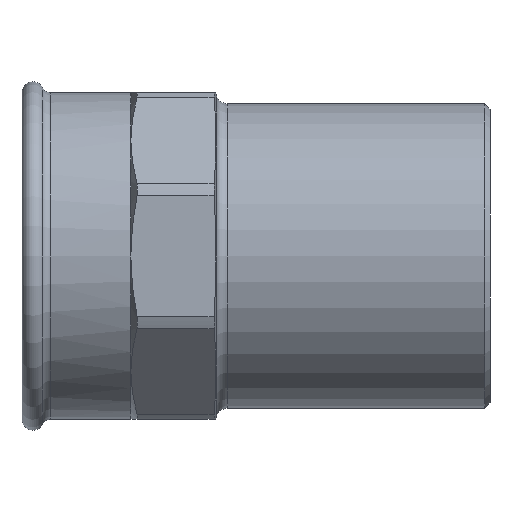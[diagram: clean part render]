
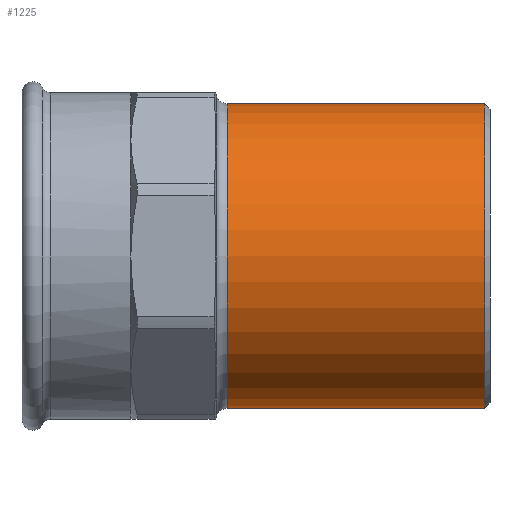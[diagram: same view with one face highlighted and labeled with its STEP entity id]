
A CAD part, left-side view. The second image highlights one B-rep face of the part: STEP entity #1225.
In plain terms, the highlighted cylindrical face has radius 14 mm (diameter 28 mm), a partial arc.
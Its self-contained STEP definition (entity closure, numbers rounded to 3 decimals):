
#2 = FACE_OUTER_BOUND ( 'NONE', #1400, .T. ) ;
#205 = EDGE_CURVE ( 'NONE', #1202, #383, #1095, .T. ) ;
#227 = ORIENTED_EDGE ( 'NONE', *, *, #839, .T. ) ;
#253 = VERTEX_POINT ( 'NONE', #831 ) ;
#255 = CARTESIAN_POINT ( 'NONE',  ( 0., -17.811, 14. ) ) ;
#339 = CYLINDRICAL_SURFACE ( 'NONE', #1081, 14. ) ;
#375 = CARTESIAN_POINT ( 'NONE',  ( 0., 24.161, -14. ) ) ;
#383 = VERTEX_POINT ( 'NONE', #754 ) ;
#396 = DIRECTION ( 'NONE',  ( 0., 0., -1. ) ) ;
#464 = VECTOR ( 'NONE', #533, 1000. ) ;
#466 = CIRCLE ( 'NONE', #1439, 14. ) ;
#488 = ORIENTED_EDGE ( 'NONE', *, *, #205, .F. ) ;
#493 = VERTEX_POINT ( 'NONE', #375 ) ;
#533 = DIRECTION ( 'NONE',  ( 0., -1., 0. ) ) ;
#557 = CARTESIAN_POINT ( 'NONE',  ( 0., 0.5, 0. ) ) ;
#583 = ORIENTED_EDGE ( 'NONE', *, *, #1277, .F. ) ;
#586 = CARTESIAN_POINT ( 'NONE',  ( 0., -17.811, -14. ) ) ;
#671 = VECTOR ( 'NONE', #979, 1000. ) ;
#754 = CARTESIAN_POINT ( 'NONE',  ( 0., 0.5, -14. ) ) ;
#811 = DIRECTION ( 'NONE',  ( 0., -1., 0. ) ) ;
#831 = CARTESIAN_POINT ( 'NONE',  ( 0., 24.161, 14. ) ) ;
#839 = EDGE_CURVE ( 'NONE', #253, #493, #466, .T. ) ;
#951 = CARTESIAN_POINT ( 'NONE',  ( 0., 24.161, 0. ) ) ;
#979 = DIRECTION ( 'NONE',  ( 0., -1., 0. ) ) ;
#1025 = CARTESIAN_POINT ( 'NONE',  ( 0., 0.5, 14. ) ) ;
#1068 = ORIENTED_EDGE ( 'NONE', *, *, #1396, .T. ) ;
#1081 = AXIS2_PLACEMENT_3D ( 'NONE', #1356, #1255, #1364 ) ;
#1095 = CIRCLE ( 'NONE', #1440, 14. ) ;
#1126 = DIRECTION ( 'NONE',  ( 0., -1., 0. ) ) ;
#1162 = DIRECTION ( 'NONE',  ( 0., 0., -1. ) ) ;
#1196 = LINE ( 'NONE', #586, #464 ) ;
#1202 = VERTEX_POINT ( 'NONE', #1025 ) ;
#1225 = ADVANCED_FACE ( 'NONE', ( #2 ), #339, .T. ) ;
#1255 = DIRECTION ( 'NONE',  ( 0., -1., 0. ) ) ;
#1277 = EDGE_CURVE ( 'NONE', #253, #1202, #1472, .T. ) ;
#1356 = CARTESIAN_POINT ( 'NONE',  ( 0., -17.811, 0. ) ) ;
#1364 = DIRECTION ( 'NONE',  ( 0., 0., -1. ) ) ;
#1396 = EDGE_CURVE ( 'NONE', #493, #383, #1196, .T. ) ;
#1400 = EDGE_LOOP ( 'NONE', ( #583, #227, #1068, #488 ) ) ;
#1439 = AXIS2_PLACEMENT_3D ( 'NONE', #951, #811, #396 ) ;
#1440 = AXIS2_PLACEMENT_3D ( 'NONE', #557, #1126, #1162 ) ;
#1472 = LINE ( 'NONE', #255, #671 ) ;
